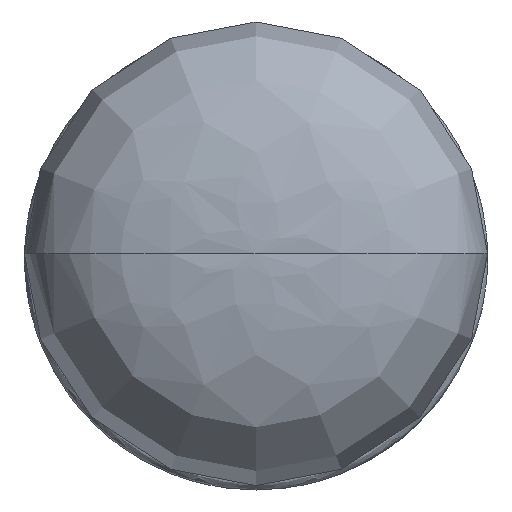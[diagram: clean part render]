
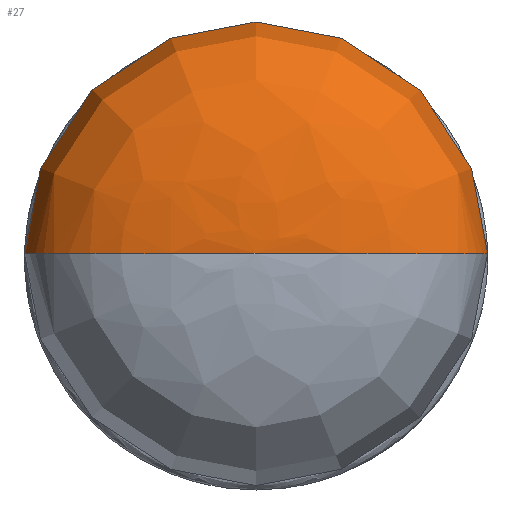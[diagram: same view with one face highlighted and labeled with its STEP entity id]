
A CAD part, top view. The second image highlights one B-rep face of the part: STEP entity #27.
In plain terms, the highlighted free-form (B-spline) face has degree [3, 2] with [7, 5] control points.
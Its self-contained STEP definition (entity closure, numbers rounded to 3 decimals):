
#27=ADVANCED_FACE('',(#38),#156,.T.);
#38=FACE_OUTER_BOUND('',#52,.T.);
#52=EDGE_LOOP('',(#90,#91,#92));
#90=ORIENTED_EDGE('',*,*,#111,.T.);
#91=ORIENTED_EDGE('',*,*,#112,.T.);
#92=ORIENTED_EDGE('',*,*,#109,.F.);
#109=EDGE_CURVE('',#150,#151,#115,.T.);
#111=EDGE_CURVE('',#150,#152,#116,.T.);
#112=EDGE_CURVE('',#152,#151,#138,.T.);
#115=(
BOUNDED_CURVE()
B_SPLINE_CURVE(3,(#801,#802,#803,#804,#805,#806,#807),.UNSPECIFIED.,.F.,
 .F.)
B_SPLINE_CURVE_WITH_KNOTS((4,3,4),(0.,135.826,238.876),
 .UNSPECIFIED.)
CURVE()
GEOMETRIC_REPRESENTATION_ITEM()
RATIONAL_B_SPLINE_CURVE((1.,1.,1.,1.,1.,1.,1.))
REPRESENTATION_ITEM('')
);
#116=(
BOUNDED_CURVE()
B_SPLINE_CURVE(3,(#821,#822,#823,#824,#825,#826,#827),.UNSPECIFIED.,.F.,
 .F.)
B_SPLINE_CURVE_WITH_KNOTS((4,3,4),(0.,135.826,238.876),
 .UNSPECIFIED.)
CURVE()
GEOMETRIC_REPRESENTATION_ITEM()
RATIONAL_B_SPLINE_CURVE((1.,1.,1.,1.,1.,1.,1.))
REPRESENTATION_ITEM('')
);
#138=B_SPLINE_CURVE_WITH_KNOTS('',3,(#828,#829,#830,#831,#832,#833,#834,
#835,#836,#837,#838,#839,#840),.UNSPECIFIED.,.F.,.F.,(4,3,3,3,4),(150.457,
188.072,225.686,263.3,300.914),
 .UNSPECIFIED.);
#150=VERTEX_POINT('',#548);
#151=VERTEX_POINT('',#549);
#152=VERTEX_POINT('',#550);
#156=(
BOUNDED_SURFACE()
B_SPLINE_SURFACE(3,2,((#502,#503,#504,#505,#506),(#507,#508,#509,#510,#511),
(#512,#513,#514,#515,#516),(#517,#518,#519,#520,#521),(#522,#523,#524,#525,
#526),(#527,#528,#529,#530,#531),(#532,#533,#534,#535,#536)),
 .UNSPECIFIED.,.F.,.F.,.F.)
B_SPLINE_SURFACE_WITH_KNOTS((4,3,4),(3,2,3),(0.,135.826,240.642),
(345.571,518.356,691.141),.UNSPECIFIED.)
GEOMETRIC_REPRESENTATION_ITEM()
RATIONAL_B_SPLINE_SURFACE(((1.,0.707,1.,0.707,1.),
(1.,0.707,1.,0.707,1.),(1.,0.707,1.,
0.707,1.),(1.,0.707,1.,0.707,1.),(1.,
0.707,1.,0.707,1.),(1.,0.707,1.,0.707,
1.),(1.,0.707,1.,0.707,1.)))
REPRESENTATION_ITEM('')
SURFACE()
);
#502=CARTESIAN_POINT('',(0.,0.009,1299.997));
#503=CARTESIAN_POINT('',(0.,0.009,1299.997));
#504=CARTESIAN_POINT('',(0.,0.009,1299.997));
#505=CARTESIAN_POINT('',(0.,0.009,1299.997));
#506=CARTESIAN_POINT('',(0.,0.009,1299.997));
#507=CARTESIAN_POINT('',(73.333,0.009,1299.997));
#508=CARTESIAN_POINT('',(73.333,73.342,1299.997));
#509=CARTESIAN_POINT('',(0.,73.342,1299.997));
#510=CARTESIAN_POINT('',(-73.333,73.342,1299.997));
#511=CARTESIAN_POINT('',(-73.333,0.009,1299.997));
#512=CARTESIAN_POINT('',(110.,0.009,1278.909));
#513=CARTESIAN_POINT('',(110.,110.009,1278.909));
#514=CARTESIAN_POINT('',(0.,110.009,1278.909));
#515=CARTESIAN_POINT('',(-110.,110.009,1278.909));
#516=CARTESIAN_POINT('',(-110.,0.009,1278.909));
#517=CARTESIAN_POINT('',(110.,0.009,1236.735));
#518=CARTESIAN_POINT('',(110.,110.009,1236.735));
#519=CARTESIAN_POINT('',(0.,110.009,1236.735));
#520=CARTESIAN_POINT('',(-110.,110.009,1236.735));
#521=CARTESIAN_POINT('',(-110.,0.009,1236.735));
#522=CARTESIAN_POINT('',(110.,0.009,1204.189));
#523=CARTESIAN_POINT('',(110.,110.009,1204.189));
#524=CARTESIAN_POINT('',(0.,110.009,1204.189));
#525=CARTESIAN_POINT('',(-110.,110.009,1204.189));
#526=CARTESIAN_POINT('',(-110.,0.009,1204.189));
#527=CARTESIAN_POINT('',(88.164,0.009,1184.201));
#528=CARTESIAN_POINT('',(88.164,88.173,1184.201));
#529=CARTESIAN_POINT('',(0.,88.173,1184.201));
#530=CARTESIAN_POINT('',(-88.164,88.173,1184.201));
#531=CARTESIAN_POINT('',(-88.164,0.009,1184.201));
#532=CARTESIAN_POINT('',(44.493,0.009,1176.77));
#533=CARTESIAN_POINT('',(44.493,44.502,1176.77));
#534=CARTESIAN_POINT('',(0.,44.502,1176.77));
#535=CARTESIAN_POINT('',(-44.493,44.502,1176.77));
#536=CARTESIAN_POINT('',(-44.493,0.009,1176.77));
#548=CARTESIAN_POINT('',(0.,0.009,1299.997));
#549=CARTESIAN_POINT('',(-46.683,0.009,1177.157));
#550=CARTESIAN_POINT('',(46.683,0.009,1177.157));
#801=CARTESIAN_POINT('',(0.,0.009,1299.997));
#802=CARTESIAN_POINT('',(-73.333,0.009,1299.997));
#803=CARTESIAN_POINT('',(-110.,0.009,1278.909));
#804=CARTESIAN_POINT('',(-110.,0.009,1236.735));
#805=CARTESIAN_POINT('',(-110.,0.009,1204.737));
#806=CARTESIAN_POINT('',(-88.894,0.009,1184.878));
#807=CARTESIAN_POINT('',(-46.683,0.009,1177.157));
#821=CARTESIAN_POINT('',(0.,0.009,1299.997));
#822=CARTESIAN_POINT('',(73.333,0.009,1299.997));
#823=CARTESIAN_POINT('',(110.,0.009,1278.909));
#824=CARTESIAN_POINT('',(110.,0.009,1236.735));
#825=CARTESIAN_POINT('',(110.,0.009,1204.737));
#826=CARTESIAN_POINT('',(88.894,0.009,1184.878));
#827=CARTESIAN_POINT('',(46.683,0.009,1177.157));
#828=CARTESIAN_POINT('',(46.683,0.009,1177.157));
#829=CARTESIAN_POINT('',(46.683,12.39,1177.157));
#830=CARTESIAN_POINT('',(41.764,24.264,1177.157));
#831=CARTESIAN_POINT('',(33.01,33.019,1177.157));
#832=CARTESIAN_POINT('',(24.255,41.773,1177.157));
#833=CARTESIAN_POINT('',(12.381,46.692,1177.157));
#834=CARTESIAN_POINT('',(0.,46.692,1177.157));
#835=CARTESIAN_POINT('',(-12.381,46.692,1177.157));
#836=CARTESIAN_POINT('',(-24.255,41.773,1177.157));
#837=CARTESIAN_POINT('',(-33.01,33.018,1177.157));
#838=CARTESIAN_POINT('',(-41.764,24.264,1177.157));
#839=CARTESIAN_POINT('',(-46.683,12.39,1177.157));
#840=CARTESIAN_POINT('',(-46.683,0.009,1177.157));
